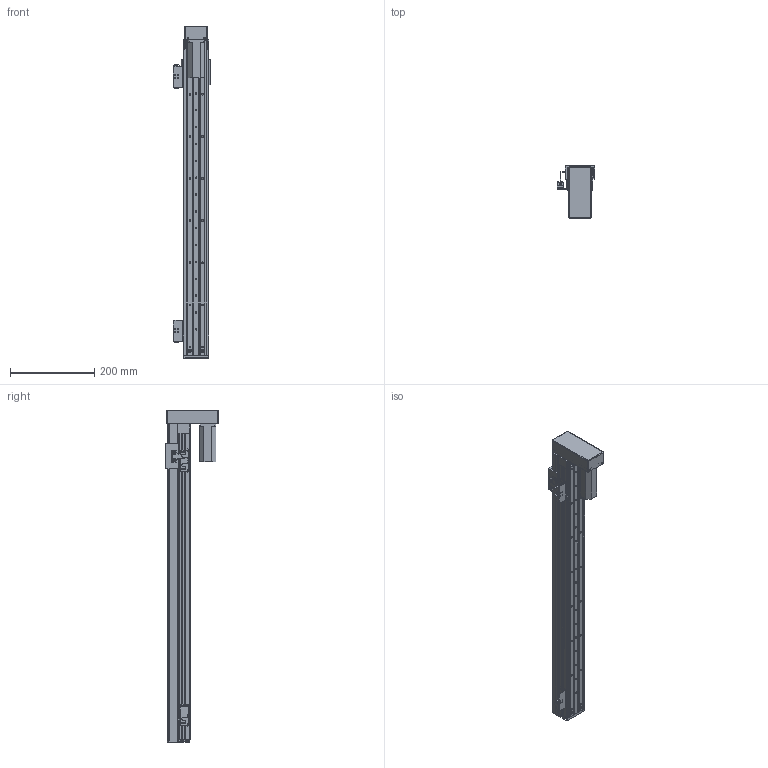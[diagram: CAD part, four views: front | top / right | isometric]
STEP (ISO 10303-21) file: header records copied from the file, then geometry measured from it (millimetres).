
FILE_DESCRIPTION (( 'STEP AP203' ), '1' );
FILE_NAME ('RY60FB-L1210-300-BK.SLDASM_600.step', '2021-02-23T00:55:31', ( '盈信电脑' ), ( '东莞市道滘镇水果街19号' ), 'SwSTEP 2.0', 'SolidWorks 2012', '' );
FILE_SCHEMA (( 'CONFIG_CONTROL_DESIGN' ));
Length unit declared in the file: millimetre
Products named in the file (15): RY60FB-L1210-300-BK.SLDASM_600; RY60FB-蛌殏萇儂欶; RY60FB-674嫖萇耀輸; RY60FB-狟殏萇儂假蚾啣; 覜茼ん674; RY60FB-感应器674光电安装座; RY80俋离覜茼え; RY60FB转折电机端支撑座; RY60FB綴裔啣; RY60FB-蛌殏奻裔-300-BK_600; 侂狟100W; 滅袉蝶18-10; RY60FB-臏賑輸; RY60FB-蛌殏菁釱-300-BK_600
Assembly tree (20 placements, depth 3):
  RY60FB-L1210-300-BK.SLDASM_600
    RY60FB-蛌殏菁釱-300-BK_600
    RY60FB-臏賑輸
    滅袉蝶18-10  x4
    RY60FB-蛌殏奻裔-300-BK_600
    侂狟100W
    RY60FB綴裔啣
    RY60FB转折电机端支撑座
    RY80俋离覜茼え
    RY60FB-674嫖萇耀輸
      RY60FB-感应器674光电安装座
      覜茼ん674  x2
    RY60FB-674嫖萇耀輸
      RY60FB-感应器674光电安装座
      覜茼ん674
    RY60FB-狟殏萇儂假蚾啣
    RY60FB-蛌殏萇儂欶
Bounding box: 90 x 125.45 x 788 mm (x, y, z)
Volume: 1006872 mm3; surface area: 561403.2 mm2
Topology: 18 solids, 18 shells, 1107 faces, 3022 edges, 1924 vertices
Faces by surface type: plane 529, cylinder 473, cone 97, bspline 8
Entity records: 31943 total; most frequent: CARTESIAN_POINT 6201, DIRECTION 5070, ORIENTED_EDGE 4940, EDGE_CURVE 2470, AXIS2_PLACEMENT_3D 1781, VERTEX_POINT 1600, LINE 1508, VECTOR 1508
